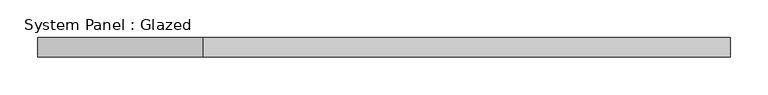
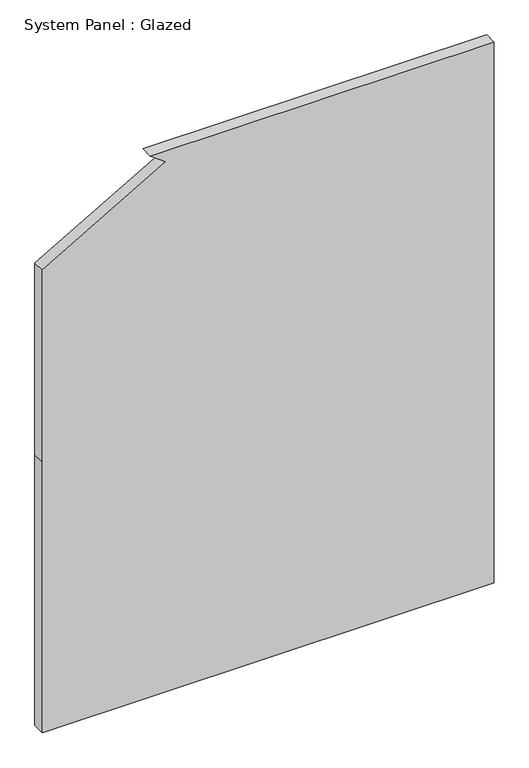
"""IFC4 building model written with IfcOpenShell, lengths in millimetres: plate geometry, System Panel : Glazed."""

from ifc_helpers import new_model, si_unit, frame, origin, place, context, project, spatial, polyline, outline, extrude, source, transform, mapped, element, save


def system_panel_glazed_3f111270(model_context):
    return source(origin(), model_context, "Body", "SweptSolid", [
        extrude(outline(polyline([(0.0, -456.6708333), (0.0, 456.6708333), (577.85, 456.6708333), (1155.7, 456.6708333), (1155.7, -238.3128221), (1132.4573869, -206.5628221), (988.0574592, -456.6708333), (577.85, -456.6708333), (0.0, -456.6708333)])), frame((0.0, -44.45, 0.0), z_axis=(0.0, 1.0, 0.0), x_axis=(0.0, 0.0, 1.0)), (0.0, 0.0, 1.0), 25.4),
    ])


if __name__ == "__main__":
    model = new_model("IFC4")
    model_context = context("Model", 3, world=origin())
    ifc_project = project(units=[si_unit("LENGTHUNIT", "METRE", prefix="MILLI")], contexts=[model_context])
    site = spatial("IfcSite", under=ifc_project)
    building = spatial("IfcBuilding", under=site)
    placement = place(None, origin())
    system_panel_glazed_shape = system_panel_glazed_3f111270(model_context)
    element("IfcPlate", 1, ObjectType="System Panel : Glazed", at=placement, inside=building, context=model_context, shape_type="MappedRepresentation", body=[
        mapped(system_panel_glazed_shape, transform((0.0, 0.0, 0.0), x_axis=(1.0, 0.0, 0.0), y_axis=(0.0, 1.0, 0.0), z_axis=(0.0, 0.0, 1.0))),
    ])
    save(model, "model.ifc")
